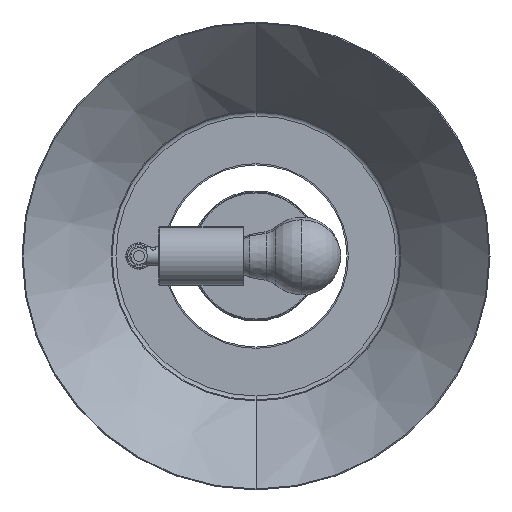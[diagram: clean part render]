
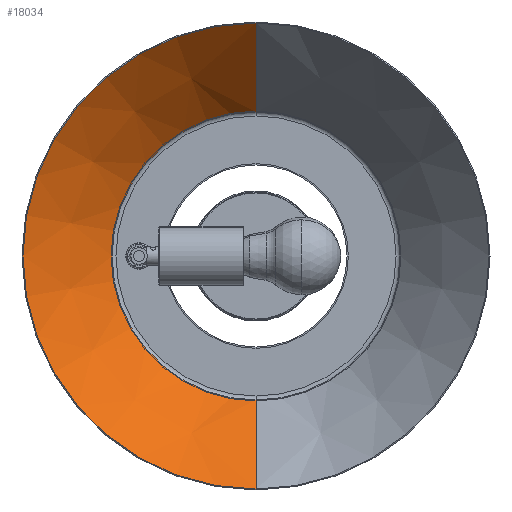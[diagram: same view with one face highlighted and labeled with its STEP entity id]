
A CAD part, front view. The second image highlights one B-rep face of the part: STEP entity #18034.
In plain terms, the highlighted conical face has half-angle 41.09 degrees and reference radius 179.247 mm.
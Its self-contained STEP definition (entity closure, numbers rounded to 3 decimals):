
#69 = CARTESIAN_POINT ( 'NONE',  ( -38.55, -999.594, -79.247 ) ) ;
#700 = LINE ( 'NONE', #3715, #23991 ) ;
#1235 = EDGE_LOOP ( 'NONE', ( #23125, #20761, #2777, #10025 ) ) ;
#1868 = CARTESIAN_POINT ( 'NONE',  ( -38.55, -921.011, -10.719 ) ) ;
#1964 = CARTESIAN_POINT ( 'NONE',  ( -38.55, -999.594, 100. ) ) ;
#2489 = VERTEX_POINT ( 'NONE', #18859 ) ;
#2777 = ORIENTED_EDGE ( 'NONE', *, *, #6269, .T. ) ;
#3179 = VERTEX_POINT ( 'NONE', #1868 ) ;
#3370 = CARTESIAN_POINT ( 'NONE',  ( -38.55, -921.011, 100. ) ) ;
#3378 = EDGE_CURVE ( 'NONE', #3179, #18136, #20470, .T. ) ;
#3715 = CARTESIAN_POINT ( 'NONE',  ( -38.55, -999.594, 279.247 ) ) ;
#5628 = DIRECTION ( 'NONE',  ( 0., 0., -1. ) ) ;
#6269 = EDGE_CURVE ( 'NONE', #7535, #18136, #8110, .T. ) ;
#6802 = EDGE_CURVE ( 'NONE', #2489, #7535, #700, .T. ) ;
#7535 = VERTEX_POINT ( 'NONE', #22060 ) ;
#8110 = CIRCLE ( 'NONE', #12707, 179.247 ) ;
#10025 = ORIENTED_EDGE ( 'NONE', *, *, #3378, .F. ) ;
#10820 = AXIS2_PLACEMENT_3D ( 'NONE', #3370, #19939, #21652 ) ;
#12707 = AXIS2_PLACEMENT_3D ( 'NONE', #23089, #25480, #21380 ) ;
#17914 = VECTOR ( 'NONE', #18982, 1000. ) ;
#18034 = ADVANCED_FACE ( 'NONE', ( #26043 ), #21230, .F. ) ;
#18136 = VERTEX_POINT ( 'NONE', #22124 ) ;
#18599 = EDGE_CURVE ( 'NONE', #2489, #3179, #23763, .T. ) ;
#18682 = AXIS2_PLACEMENT_3D ( 'NONE', #1964, #19971, #5628 ) ;
#18859 = CARTESIAN_POINT ( 'NONE',  ( -38.55, -921.011, 210.719 ) ) ;
#18982 = DIRECTION ( 'NONE',  ( 0., -0.754, -0.657 ) ) ;
#19939 = DIRECTION ( 'NONE',  ( 0., -1., 0. ) ) ;
#19971 = DIRECTION ( 'NONE',  ( 0., -1., 0. ) ) ;
#20470 = LINE ( 'NONE', #69, #17914 ) ;
#20761 = ORIENTED_EDGE ( 'NONE', *, *, #6802, .T. ) ;
#21230 = CONICAL_SURFACE ( 'NONE', #18682, 179.247, 0.717 ) ;
#21380 = DIRECTION ( 'NONE',  ( 0., 0., -1. ) ) ;
#21652 = DIRECTION ( 'NONE',  ( 0., 0., -1. ) ) ;
#22001 = DIRECTION ( 'NONE',  ( 0., -0.754, 0.657 ) ) ;
#22060 = CARTESIAN_POINT ( 'NONE',  ( -38.55, -999.594, 279.247 ) ) ;
#22124 = CARTESIAN_POINT ( 'NONE',  ( -38.55, -999.594, -79.247 ) ) ;
#23089 = CARTESIAN_POINT ( 'NONE',  ( -38.55, -999.594, 100. ) ) ;
#23125 = ORIENTED_EDGE ( 'NONE', *, *, #18599, .F. ) ;
#23763 = CIRCLE ( 'NONE', #10820, 110.719 ) ;
#23991 = VECTOR ( 'NONE', #22001, 1000. ) ;
#25480 = DIRECTION ( 'NONE',  ( 0., -1., 0. ) ) ;
#26043 = FACE_OUTER_BOUND ( 'NONE', #1235, .T. ) ;
